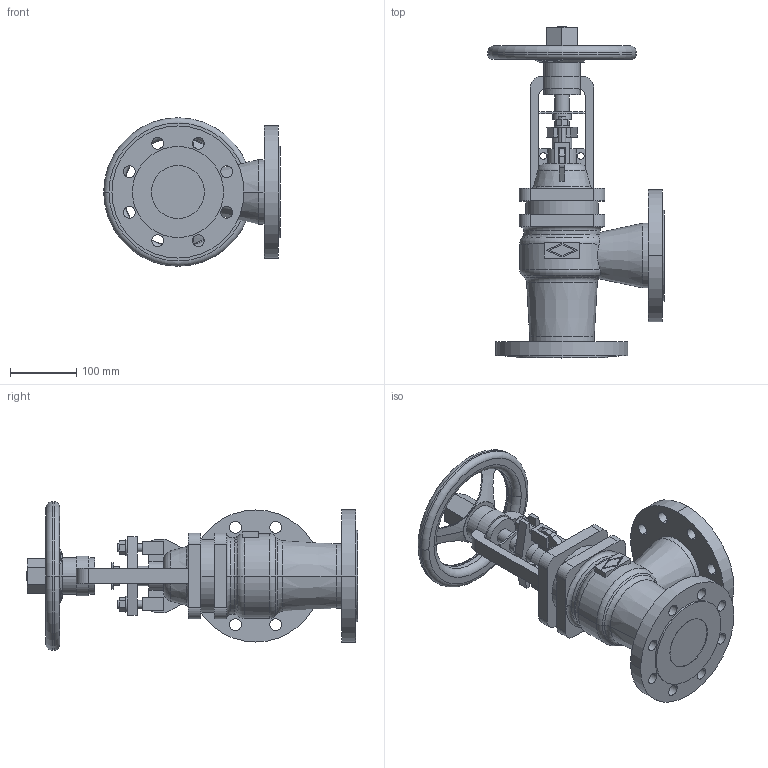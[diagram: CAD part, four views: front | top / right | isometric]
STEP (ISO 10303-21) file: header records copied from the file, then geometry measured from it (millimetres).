
FILE_DESCRIPTION(('OneSpaceDesigner STEP Export'),'2;1');
FILE_NAME('c000004452.stp','2010-05-17T 9:55:34',(''),(''),'OneSpace Designer STEP processor for AP214 (Solid Model)','OneSpace Modeling 15.50B 03-Nov-2007 (C) CoCreate Software GmbH','');
FILE_SCHEMA(('AUTOMOTIVE_DESIGN { 1 0 10303 214 1 1 1 1 }'));
Length unit declared in the file: millimetre
Products named in the file (1): 1
Bounding box: 267.5 x 502.8 x 225 mm (x, y, z)
Volume: 5377638.9 mm3; surface area: 451589.7 mm2
Topology: 1 solids, 1 shells, 332 faces, 893 edges, 586 vertices
Faces by surface type: plane 148, cylinder 140, torus 30, cone 14
Entity records: 13285 total; most frequent: CARTESIAN_POINT 2720, ORIENTED_EDGE 1786, DIRECTION 1443, EDGE_CURVE 893, VERTEX_POINT 586, AXIS2_PLACEMENT_3D 500, VECTOR 443, LINE 443
